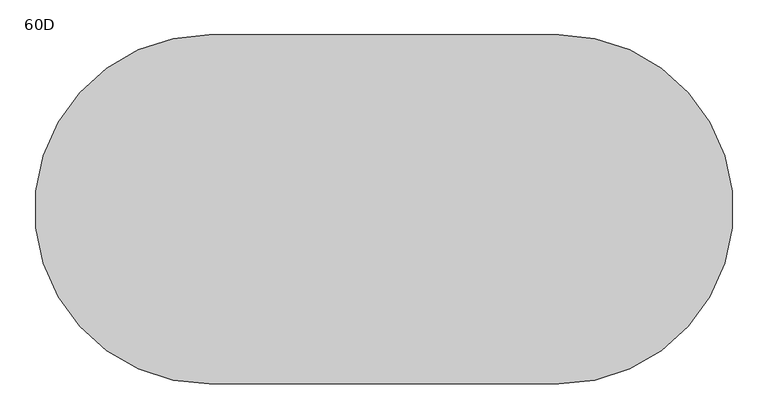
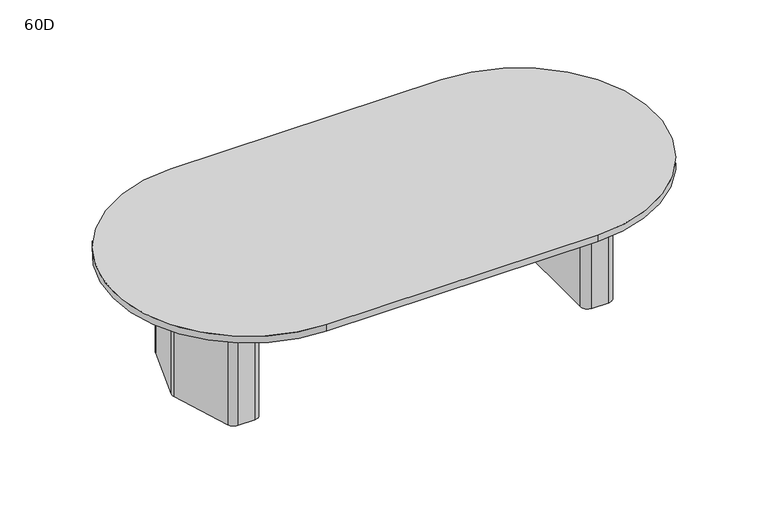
"""IFC4 building model written with IfcOpenShell, lengths in millimetres: furniture geometry, Coalesse_AM_Table_Conference_ETable2_Racetrack_10ft_TwoBase : 60D."""

import ifcopenshell
import ifcopenshell.guid

model = None  # the IFC model being written
_history = None  # IfcOwnerHistory: only IFC2X3 demands one
_inside = {}  # id of a spatial element -> (the spatial element, [elements in it])
_under = {}  # id of a project, library or spatial element -> (it, [spatial elements below it])
_declared = {}  # id of a project -> (the project, [libraries it declares])
_typed = {}  # id of a type object -> (the type object, [elements of that type])
_made_of = {}  # id of a material, layer set ... -> (it, [elements and type objects made of it])


def new_model(schema):
    """Start an empty IFC model of exactly this schema.

    Asked for "IFC4X3", IfcOpenShell would pick the latest addendum, in which some entities
    have other attributes; the version numbers below select the first issue.
    IFC2X3 requires an IfcOwnerHistory on every rooted entity: one is made here for all.
    """
    global model, _history
    if schema == "IFC4X3":
        model = ifcopenshell.file(schema_version=(4, 3, 0, 0))
    else:
        model = ifcopenshell.file(schema=schema)
    _inside.clear()
    _under.clear()
    _declared.clear()
    _typed.clear()
    _made_of.clear()
    _history = None
    if model.schema == "IFC2X3":
        org = make("IfcOrganization", Name="unknown")
        user = make(
            "IfcPersonAndOrganization",
            ThePerson=make("IfcPerson", FamilyName="unknown"),
            TheOrganization=org,
        )
        app = make(
            "IfcApplication",
            ApplicationDeveloper=org,
            Version="unknown",
            ApplicationFullName="unknown",
            ApplicationIdentifier="unknown",
        )
        _history = make(
            "IfcOwnerHistory",
            OwningUser=user,
            OwningApplication=app,
            ChangeAction="ADDED",
            CreationDate=0,
        )
    return model


def make(cls, **values):
    """One entity of the class cls with the attributes given. An attribute that is None is left unset."""
    return model.create_entity(
        cls, **{name: value for name, value in values.items() if value is not None}
    )


def rooted(cls, **values):
    """An entity with a GlobalId (a new one), such as an element, a storey or a relation."""
    return make(cls, GlobalId=ifcopenshell.guid.new(), OwnerHistory=_history, **values)


def si_unit(unit_type, name, prefix=None):
    """IfcSIUnit, for example si_unit("LENGTHUNIT", "METRE", prefix="MILLI")."""
    return make("IfcSIUnit", UnitType=unit_type, Prefix=prefix, Name=name)


def assignment(units):
    """IfcUnitAssignment: the units of a project."""
    return None if units is None else make("IfcUnitAssignment", Units=units)


def point(xyz):
    """IfcCartesianPoint."""
    return None if xyz is None else make("IfcCartesianPoint", Coordinates=xyz)


def direction(xyz):
    """IfcDirection."""
    return None if xyz is None else make("IfcDirection", DirectionRatios=xyz)


def frame(location, z_axis=None, x_axis=None):
    """IfcAxis2Placement3D, a coordinate frame: its origin and axes. An axis left out is left unset."""
    return make(
        "IfcAxis2Placement3D",
        Location=point(location),
        Axis=direction(z_axis),
        RefDirection=direction(x_axis),
    )


def frame_2d(location, x_axis=None):
    """IfcAxis2Placement2D, a coordinate frame in the plane: its origin and x axis."""
    return make(
        "IfcAxis2Placement2D", Location=point(location), RefDirection=direction(x_axis)
    )


def origin():
    """The frame at (0, 0, 0) with its axes left unset."""
    return frame((0.0, 0.0, 0.0))


def origin_with_axes():
    """The frame at (0, 0, 0) with the z axis (0, 0, 1) and the x axis (1, 0, 0) written out."""
    return frame((0.0, 0.0, 0.0), z_axis=(0.0, 0.0, 1.0), x_axis=(1.0, 0.0, 0.0))


def place(relative_to, where):
    """IfcLocalPlacement: puts the frame where relative to a parent placement (None: the world)."""
    return make(
        "IfcLocalPlacement", PlacementRelTo=relative_to, RelativePlacement=where
    )


def context(
    kind, dimensions, precision=None, world=None, true_north=None, identifier=None
):
    """IfcGeometricRepresentationContext, for example the 3D "Model" context."""
    return make(
        "IfcGeometricRepresentationContext",
        ContextIdentifier=identifier,
        ContextType=kind,
        CoordinateSpaceDimension=dimensions,
        Precision=precision,
        WorldCoordinateSystem=world,
        TrueNorth=true_north,
    )


def project(units=None, contexts=None):
    """IfcProject with its units and contexts."""
    return rooted(
        "IfcProject",
        Name="project",
        RepresentationContexts=contexts,
        UnitsInContext=assignment(units),
    )


def spatial(cls, under=None, at=None, **own):
    """A site, building, storey or space (cls), placed at a placement, below another one or the project."""
    s = rooted(cls, ObjectPlacement=at, **own)
    if under is not None:
        _under.setdefault(under.id(), (under, []))[1].append(s)
    return s


def polyline(points):
    """IfcPolyline through the points."""
    return make("IfcPolyline", Points=[point(p) for p in points])


def circle_curve(where, radius):
    """IfcCircle in the frame where."""
    return make("IfcCircle", Position=where, Radius=radius)


def trimmed(basis, trim1, trim2, sense, master):
    """IfcTrimmedCurve: the piece of a basis curve between two trims."""
    return make(
        "IfcTrimmedCurve",
        BasisCurve=basis,
        Trim1=trim1,
        Trim2=trim2,
        SenseAgreement=sense,
        MasterRepresentation=master,
    )


def segment(curve, same_sense, transition):
    """IfcCompositeCurveSegment."""
    return make(
        "IfcCompositeCurveSegment",
        Transition=transition,
        SameSense=same_sense,
        ParentCurve=curve,
    )


def composite_curve(segments, self_intersect=None):
    """IfcCompositeCurve: segments joined end to end."""
    return make("IfcCompositeCurve", Segments=segments, SelfIntersect=self_intersect)


def outline(outer, holes=None, kind="AREA"):
    """IfcArbitraryClosedProfileDef: a profile drawn as a closed curve; with holes, ...WithVoids."""
    if holes is None:
        return make("IfcArbitraryClosedProfileDef", ProfileType=kind, OuterCurve=outer)
    return make(
        "IfcArbitraryProfileDefWithVoids",
        ProfileType=kind,
        OuterCurve=outer,
        InnerCurves=holes,
    )


def extrude(swept, where, along, depth):
    """IfcExtrudedAreaSolid: the profile swept, set in the frame where, extruded along a direction by depth."""
    return make(
        "IfcExtrudedAreaSolid",
        SweptArea=swept,
        Position=where,
        ExtrudedDirection=direction(along),
        Depth=depth,
    )


def shape(context_of_items, identifier, shape_type, items):
    """IfcShapeRepresentation: the items that make up one representation, for example the "Body"."""
    return make(
        "IfcShapeRepresentation",
        ContextOfItems=context_of_items,
        RepresentationIdentifier=identifier,
        RepresentationType=shape_type,
        Items=items,
    )


def source(mapping_origin, context_of_items, identifier, shape_type, items):
    """IfcRepresentationMap: a shape defined once, which mapped items show again and again."""
    return make(
        "IfcRepresentationMap",
        MappingOrigin=mapping_origin,
        MappedRepresentation=shape(context_of_items, identifier, shape_type, items),
    )


def transform(
    local_origin,
    x_axis=None,
    y_axis=None,
    z_axis=None,
    scale=None,
    scale2=None,
    scale3=None,
    uniform=True,
):
    """IfcCartesianTransformationOperator3D, or its non-uniform kind. x_axis, y_axis, z_axis: its Axis1, 2, 3."""
    if uniform:
        return make(
            "IfcCartesianTransformationOperator3D",
            Axis1=direction(x_axis),
            Axis2=direction(y_axis),
            LocalOrigin=point(local_origin),
            Scale=scale,
            Axis3=direction(z_axis),
        )
    return make(
        "IfcCartesianTransformationOperator3DnonUniform",
        Axis1=direction(x_axis),
        Axis2=direction(y_axis),
        LocalOrigin=point(local_origin),
        Scale=scale,
        Axis3=direction(z_axis),
        Scale2=scale2,
        Scale3=scale3,
    )


def mapped(mapping_source, mapping_target):
    """IfcMappedItem: shows the shape of a source again, moved by a transform."""
    return make(
        "IfcMappedItem", MappingSource=mapping_source, MappingTarget=mapping_target
    )


def made_of(thing, what):
    """Note that an element or type object is made of a material, layer set ...; save() writes the relation."""
    if what is not None:
        _made_of.setdefault(what.id(), (what, []))[1].append(thing)
    return thing


def element(
    cls,
    number,
    at=None,
    inside=None,
    cuts=None,
    type_object=None,
    material=None,
    context=None,
    identifier="Body",
    shape_type=None,
    held_by="IfcProductDefinitionShape",
    body=None,
    shapes=None,
    **own,
):
    """One element of the class cls, such as IfcWall. Its Tag is "e" and its number.

    at: its placement. inside: the storey or other place that contains it. cuts: it is an
    opening in that element (IfcRelVoidsElement). A single representation is given by context,
    identifier, shape_type and body (its items); several are given by shapes. held_by: the class
    of the entity that holds the representations. save() writes the other relations.
    """
    e = rooted(cls, Tag="e%d" % number, ObjectPlacement=at, **own)
    if body is not None:
        shapes = [shape(context, identifier, shape_type, body)]
    if shapes is not None:
        e.Representation = make(held_by, Representations=shapes)
    if inside is not None:
        _inside.setdefault(inside.id(), (inside, []))[1].append(e)
    if cuts is not None:
        rooted(
            "IfcRelVoidsElement", RelatingBuildingElement=cuts, RelatedOpeningElement=e
        )
    if type_object is not None:
        _typed.setdefault(type_object.id(), (type_object, []))[1].append(e)
    return made_of(e, material)


def aggregate(whole, parts):
    """IfcRelAggregates: a whole, such as a stair, and the parts it consists of."""
    return rooted("IfcRelAggregates", RelatingObject=whole, RelatedObjects=parts)


def save(model, path):
    """Write the relations noted so far, then the file.

    IfcRelAggregates (storeys below a building ...), IfcRelContainedInSpatialStructure (elements
    in a storey), IfcRelDefinesByType, IfcRelAssociatesMaterial and IfcRelDeclares: one each for
    every whole, place, type object, material and project.
    """
    for whole, parts in _under.values():
        aggregate(whole, parts)
    for where, things in _inside.values():
        rooted(
            "IfcRelContainedInSpatialStructure",
            RelatedElements=things,
            RelatingStructure=where,
        )
    for kind, things in _typed.values():
        rooted("IfcRelDefinesByType", RelatedObjects=things, RelatingType=kind)
    for what, things in _made_of.values():
        rooted("IfcRelAssociatesMaterial", RelatedObjects=things, RelatingMaterial=what)
    for by, libraries in _declared.values():
        rooted("IfcRelDeclares", RelatingContext=by, RelatedDefinitions=libraries)
    model.write(path)


def furniture_60d_9e2b0134(model_context):
    return source(origin(), model_context, "Body", "SweptSolid", [
        extrude(outline(composite_curve([segment(polyline([(1135.0625, 101.7236478), (1135.0625, -97.2761514)]), True, "CONTINUOUS"), segment(trimmed(circle_curve(frame_2d((1096.9625, -97.2761514)), 38.1), [point((1135.0625, -97.2761514))], [point((1133.2991129, -108.7330515))], False, "CARTESIAN"), True, "CONTINUOUS"), segment(polyline([(1133.2991129, -108.7330515), (1074.8745591, -294.0319001)]), True, "CONTINUOUS"), segment(trimmed(circle_curve(frame_2d((1038.5379462, -282.575)), 38.1), [point((1074.8745591, -294.0319001))], [point((1038.5379462, -320.675))], False, "CARTESIAN"), True, "CONTINUOUS"), segment(polyline([(1038.5379462, -320.675), (971.55, -320.675)]), True, "CONTINUOUS"), segment(trimmed(circle_curve(frame_2d((971.55, -282.575)), 38.1), [point((971.55, -320.675))], [point((933.45, -282.575))], False, "CARTESIAN"), True, "CONTINUOUS"), segment(polyline([(933.45, -282.575), (933.45, 282.575)]), True, "CONTINUOUS"), segment(trimmed(circle_curve(frame_2d((971.55, 282.575)), 38.1), [point((933.45, 282.575))], [point((971.55, 320.675))], False, "CARTESIAN"), True, "CONTINUOUS"), segment(polyline([(971.55, 320.675), (1042.2873998, 320.675)]), True, "CONTINUOUS"), segment(trimmed(circle_curve(frame_2d((1042.2873998, 282.575)), 38.1), [point((1042.2873998, 320.675))], [point((1078.7572049, 293.6005756))], False, "CARTESIAN"), True, "CONTINUOUS"), segment(polyline([(1078.7572049, 293.6005756), (1133.4323051, 112.7492234)]), True, "CONTINUOUS"), segment(trimmed(circle_curve(frame_2d((1096.9625, 101.7236478)), 38.1), [point((1133.4323051, 112.7492234))], [point((1135.0625, 101.7236478))], False, "CARTESIAN"), True, "CONTINUOUS")], self_intersect=False)), origin_with_axes(), (0.0, 0.0, 1.0), 3.175),
        extrude(outline(composite_curve([segment(polyline([(955.675, 381.0), (1043.8221663, 381.0)]), True, "CONTINUOUS"), segment(trimmed(circle_curve(frame_2d((1043.8221663, 339.725)), 41.275), [point((1043.8221663, 381.0))], [point((1083.1868303, 352.1366418))], False, "CARTESIAN"), True, "CONTINUOUS"), segment(polyline([(1083.1868303, 352.1366418), (1190.3018053, 12.4116418)]), True, "CONTINUOUS"), segment(trimmed(circle_curve(frame_2d((1150.9371413, 0.0)), 41.275), [point((1190.3018053, 12.4116418))], [point((1190.3018053, -12.4116418))], False, "CARTESIAN"), True, "CONTINUOUS"), segment(polyline([(1190.3018053, -12.4116418), (1083.1868303, -352.1366418)]), True, "CONTINUOUS"), segment(trimmed(circle_curve(frame_2d((1043.8221663, -339.725)), 41.275), [point((1083.1868303, -352.1366418))], [point((1043.8221663, -381.0))], False, "CARTESIAN"), True, "CONTINUOUS"), segment(polyline([(1043.8221663, -381.0), (949.325, -381.0)]), True, "CONTINUOUS"), segment(trimmed(circle_curve(frame_2d((949.325, -339.725)), 41.275), [point((949.325, -381.0))], [point((908.05, -339.725))], False, "CARTESIAN"), True, "CONTINUOUS"), segment(polyline([(908.05, -339.725), (908.05, 333.375)]), True, "CONTINUOUS"), segment(trimmed(circle_curve(frame_2d((955.675, 333.375)), 47.625), [point((908.05, 333.375))], [point((955.675, 381.0))], False, "CARTESIAN"), True, "CONTINUOUS")], self_intersect=False), holes=[composite_curve([segment(trimmed(circle_curve(frame_2d((971.55, -282.575)), 25.4), [point((946.15, -282.575))], [point((971.55, -307.975))], True, "CARTESIAN"), True, "CONTINUOUS"), segment(polyline([(971.55, -307.975), (1038.5379462, -307.975)]), True, "CONTINUOUS"), segment(trimmed(circle_curve(frame_2d((1038.5379462, -282.575)), 25.4), [point((1038.5379462, -307.975))], [point((1062.7623548, -290.2129334))], True, "CARTESIAN"), True, "CONTINUOUS"), segment(polyline([(1062.7623548, -290.2129334), (1121.1869086, -104.9140848)]), True, "CONTINUOUS"), segment(trimmed(circle_curve(frame_2d((1096.9625, -97.2761514)), 25.4), [point((1121.1869086, -104.9140848))], [point((1122.3625, -97.2761514))], True, "CARTESIAN"), True, "CONTINUOUS"), segment(polyline([(1122.3625, -97.2761514), (1122.3625, 101.7236478)]), True, "CONTINUOUS"), segment(trimmed(circle_curve(frame_2d((1096.9625, 101.7236478)), 25.4), [point((1122.3625, 101.7236478))], [point((1121.2757034, 109.0740316))], True, "CARTESIAN"), True, "CONTINUOUS"), segment(polyline([(1121.2757034, 109.0740316), (1066.6006032, 289.9253837)]), True, "CONTINUOUS"), segment(trimmed(circle_curve(frame_2d((1042.2873998, 282.575)), 25.4), [point((1066.6006032, 289.9253837))], [point((1042.2873998, 307.975))], True, "CARTESIAN"), True, "CONTINUOUS"), segment(polyline([(1042.2873998, 307.975), (971.55, 307.975)]), True, "CONTINUOUS"), segment(trimmed(circle_curve(frame_2d((971.55, 282.575)), 25.4), [point((971.55, 307.975))], [point((946.15, 282.575))], True, "CARTESIAN"), True, "CONTINUOUS"), segment(polyline([(946.15, 282.575), (946.15, -282.575)]), True, "CONTINUOUS")], self_intersect=False)]), frame((0.0, 0.0, 3.175), z_axis=(0.0, 0.0, 1.0), x_axis=(1.0, 0.0, 0.0)), (0.0, 0.0, 1.0), 695.325),
        extrude(outline(composite_curve([segment(trimmed(circle_curve(frame_2d((-1095.375, 101.7236478)), 38.1), [point((-1133.475, 101.7236478))], [point((-1131.8448051, 112.7492234))], False, "CARTESIAN"), True, "CONTINUOUS"), segment(polyline([(-1131.8448051, 112.7492234), (-1077.1697049, 293.6005756)]), True, "CONTINUOUS"), segment(trimmed(circle_curve(frame_2d((-1040.6998998, 282.575)), 38.1), [point((-1077.1697049, 293.6005756))], [point((-1040.6998998, 320.675))], False, "CARTESIAN"), True, "CONTINUOUS"), segment(polyline([(-1040.6998998, 320.675), (-969.9625, 320.675)]), True, "CONTINUOUS"), segment(trimmed(circle_curve(frame_2d((-969.9625, 282.575)), 38.1), [point((-969.9625, 320.675))], [point((-931.8625, 282.575))], False, "CARTESIAN"), True, "CONTINUOUS"), segment(polyline([(-931.8625, 282.575), (-931.8625, -282.575)]), True, "CONTINUOUS"), segment(trimmed(circle_curve(frame_2d((-969.9625, -282.575)), 38.1), [point((-931.8625, -282.575))], [point((-969.9625, -320.675))], False, "CARTESIAN"), True, "CONTINUOUS"), segment(polyline([(-969.9625, -320.675), (-1036.9504462, -320.675)]), True, "CONTINUOUS"), segment(trimmed(circle_curve(frame_2d((-1036.9504462, -282.575)), 38.1), [point((-1036.9504462, -320.675))], [point((-1073.2870591, -294.0319001))], False, "CARTESIAN"), True, "CONTINUOUS"), segment(polyline([(-1073.2870591, -294.0319001), (-1131.7116129, -108.7330515)]), True, "CONTINUOUS"), segment(trimmed(circle_curve(frame_2d((-1095.375, -97.2761514)), 38.1), [point((-1131.7116129, -108.7330515))], [point((-1133.475, -97.2761514))], False, "CARTESIAN"), True, "CONTINUOUS"), segment(polyline([(-1133.475, -97.2761514), (-1133.475, 101.7236478)]), True, "CONTINUOUS")], self_intersect=False)), origin_with_axes(), (0.0, 0.0, 1.0), 3.175),
        extrude(outline(composite_curve([segment(trimmed(circle_curve(frame_2d((-954.0875, 333.375)), 47.625), [point((-954.0875, 381.0))], [point((-906.4625, 333.375))], False, "CARTESIAN"), True, "CONTINUOUS"), segment(polyline([(-906.4625, 333.375), (-906.4625, -339.725)]), True, "CONTINUOUS"), segment(trimmed(circle_curve(frame_2d((-947.7375, -339.725)), 41.275), [point((-906.4625, -339.725))], [point((-947.7375, -381.0))], False, "CARTESIAN"), True, "CONTINUOUS"), segment(polyline([(-947.7375, -381.0), (-1042.2346663, -381.0)]), True, "CONTINUOUS"), segment(trimmed(circle_curve(frame_2d((-1042.2346663, -339.725)), 41.275), [point((-1042.2346663, -381.0))], [point((-1081.5993303, -352.1366418))], False, "CARTESIAN"), True, "CONTINUOUS"), segment(polyline([(-1081.5993303, -352.1366418), (-1188.7143053, -12.4116418)]), True, "CONTINUOUS"), segment(trimmed(circle_curve(frame_2d((-1149.3496413, 0.0)), 41.275), [point((-1188.7143053, -12.4116418))], [point((-1188.7143053, 12.4116418))], False, "CARTESIAN"), True, "CONTINUOUS"), segment(polyline([(-1188.7143053, 12.4116418), (-1081.5993303, 352.1366418)]), True, "CONTINUOUS"), segment(trimmed(circle_curve(frame_2d((-1042.2346663, 339.725)), 41.275), [point((-1081.5993303, 352.1366418))], [point((-1042.2346663, 381.0))], False, "CARTESIAN"), True, "CONTINUOUS"), segment(polyline([(-1042.2346663, 381.0), (-954.0875, 381.0)]), True, "CONTINUOUS")], self_intersect=False), holes=[composite_curve([segment(polyline([(-944.5625, -282.575), (-944.5625, 282.575)]), True, "CONTINUOUS"), segment(trimmed(circle_curve(frame_2d((-969.9625, 282.575)), 25.4), [point((-944.5625, 282.575))], [point((-969.9625, 307.975))], True, "CARTESIAN"), True, "CONTINUOUS"), segment(polyline([(-969.9625, 307.975), (-1040.6998998, 307.975)]), True, "CONTINUOUS"), segment(trimmed(circle_curve(frame_2d((-1040.6998998, 282.575)), 25.4), [point((-1040.6998998, 307.975))], [point((-1065.0131032, 289.9253837))], True, "CARTESIAN"), True, "CONTINUOUS"), segment(polyline([(-1065.0131032, 289.9253837), (-1119.6882034, 109.0740316)]), True, "CONTINUOUS"), segment(trimmed(circle_curve(frame_2d((-1095.375, 101.7236478)), 25.4), [point((-1119.6882034, 109.0740316))], [point((-1120.775, 101.7236478))], True, "CARTESIAN"), True, "CONTINUOUS"), segment(polyline([(-1120.775, 101.7236478), (-1120.775, -97.2761514)]), True, "CONTINUOUS"), segment(trimmed(circle_curve(frame_2d((-1095.375, -97.2761514)), 25.4), [point((-1120.775, -97.2761514))], [point((-1119.5994086, -104.9140848))], True, "CARTESIAN"), True, "CONTINUOUS"), segment(polyline([(-1119.5994086, -104.9140848), (-1061.1748548, -290.2129334)]), True, "CONTINUOUS"), segment(trimmed(circle_curve(frame_2d((-1036.9504462, -282.575)), 25.4), [point((-1061.1748548, -290.2129334))], [point((-1036.9504462, -307.975))], True, "CARTESIAN"), True, "CONTINUOUS"), segment(polyline([(-1036.9504462, -307.975), (-969.9625, -307.975)]), True, "CONTINUOUS"), segment(trimmed(circle_curve(frame_2d((-969.9625, -282.575)), 25.4), [point((-969.9625, -307.975))], [point((-944.5625, -282.575))], True, "CARTESIAN"), True, "CONTINUOUS")], self_intersect=False)]), frame((0.0, 0.0, 3.175), z_axis=(0.0, 0.0, 1.0), x_axis=(1.0, 0.0, 0.0)), (0.0, 0.0, 1.0), 695.325),
        extrude(outline(polyline([(96.8375, 698.5), (103.1875, 698.5), (103.1875, 476.25), (-103.1875, 476.25), (-103.1875, 698.5), (-96.8375, 698.5), (-96.8375, 482.6), (96.8375, 482.6), (96.8375, 698.5)])), frame((-906.4625, 0.0, 0.0), z_axis=(1.0, 0.0, 0.0), x_axis=(0.0, 1.0, 0.0)), (0.0, 0.0, 1.0), 1814.5125),
        extrude(outline(composite_curve([segment(trimmed(circle_curve(frame_2d((-762.0, 0.0)), 762.0), [point((-762.0, -762.0))], [point((-762.0, 762.0))], False, "CARTESIAN"), True, "CONTINUOUS"), segment(polyline([(-762.0, 762.0), (762.0, 762.0)]), True, "CONTINUOUS"), segment(trimmed(circle_curve(frame_2d((762.0, 0.0)), 762.0), [point((762.0, 762.0))], [point((762.0, -762.0))], False, "CARTESIAN"), True, "CONTINUOUS"), segment(polyline([(762.0, -762.0), (-762.0, -762.0)]), True, "CONTINUOUS")], self_intersect=False)), frame((0.0, 0.0, 698.5), z_axis=(0.0, 0.0, 1.0), x_axis=(1.0, 0.0, 0.0)), (0.0, 0.0, 1.0), 38.1),
    ])


if __name__ == "__main__":
    model = new_model("IFC4")
    model_context = context("Model", 3, world=origin())
    ifc_project = project(units=[si_unit("LENGTHUNIT", "METRE", prefix="MILLI")], contexts=[model_context])
    site = spatial("IfcSite", under=ifc_project)
    building = spatial("IfcBuilding", under=site)
    placement = place(None, origin())
    furniture_60d_shape = furniture_60d_9e2b0134(model_context)
    element("IfcFurniture", 1, ObjectType="Coalesse_AM_Table_Conference_ETable2_Racetrack_10ft_TwoBase : 60D", at=placement, inside=building, context=model_context, shape_type="MappedRepresentation", body=[
        mapped(furniture_60d_shape, transform((0.0, 0.0, 0.0), x_axis=(1.0, 0.0, 0.0), y_axis=(0.0, 1.0, 0.0), z_axis=(0.0, 0.0, 1.0))),
    ])
    save(model, "model.ifc")
